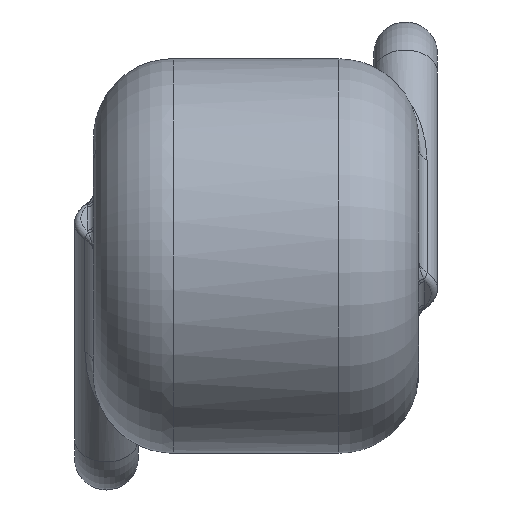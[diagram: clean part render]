
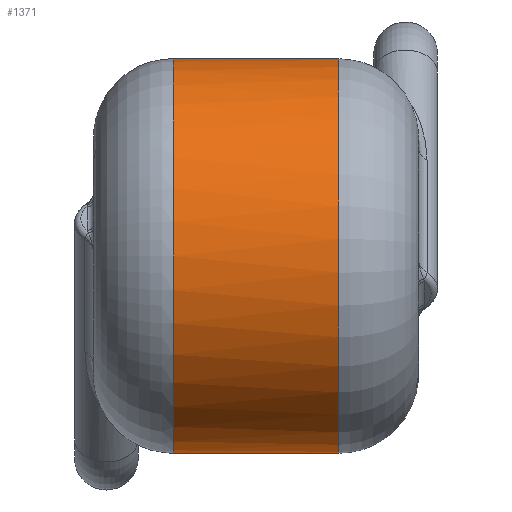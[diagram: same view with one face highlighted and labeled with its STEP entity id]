
A CAD part, left-side view. The second image highlights one B-rep face of the part: STEP entity #1371.
In plain terms, the highlighted cylindrical face has radius 6.2 mm (diameter 12.4 mm), a full revolution.
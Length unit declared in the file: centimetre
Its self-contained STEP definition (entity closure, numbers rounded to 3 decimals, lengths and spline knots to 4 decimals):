
#948=CARTESIAN_POINT('',(0.62,0.69,0.));
#949=VERTEX_POINT('',#948);
#950=CARTESIAN_POINT('',(0.0,0.69,0.0));
#951=DIRECTION('',(0.0,1.0,0.0));
#952=DIRECTION('',(-1.0,0.0,0.0));
#953=AXIS2_PLACEMENT_3D('',#950,#951,#952);
#954=CIRCLE('',#953,0.62);
#955=EDGE_CURVE('',#949,#949,#954,.T.);
#1262=CARTESIAN_POINT('',(0.62,0.169,0.));
#1263=VERTEX_POINT('',#1262);
#1264=CARTESIAN_POINT('',(0.0,0.169,0.0));
#1265=DIRECTION('',(0.0,-1.0,0.0));
#1266=DIRECTION('',(-1.0,0.0,0.0));
#1267=AXIS2_PLACEMENT_3D('',#1264,#1265,#1266);
#1268=CIRCLE('',#1267,0.62);
#1269=EDGE_CURVE('',#1263,#1263,#1268,.T.);
#1360=CARTESIAN_POINT('',(0.0,0.4295,0.0));
#1361=DIRECTION('',(0.0,1.0,0.0));
#1362=DIRECTION('',(-1.0,0.0,0.0));
#1363=AXIS2_PLACEMENT_3D('',#1360,#1361,#1362);
#1364=CYLINDRICAL_SURFACE('',#1363,0.62);
#1365=ORIENTED_EDGE('',*,*,#955,.F.);
#1366=EDGE_LOOP('',(#1365));
#1367=FACE_OUTER_BOUND('',#1366,.T.);
#1368=ORIENTED_EDGE('',*,*,#1269,.F.);
#1369=EDGE_LOOP('',(#1368));
#1370=FACE_BOUND('',#1369,.T.);
#1371=ADVANCED_FACE('',(#1367,#1370),#1364,.T.);
